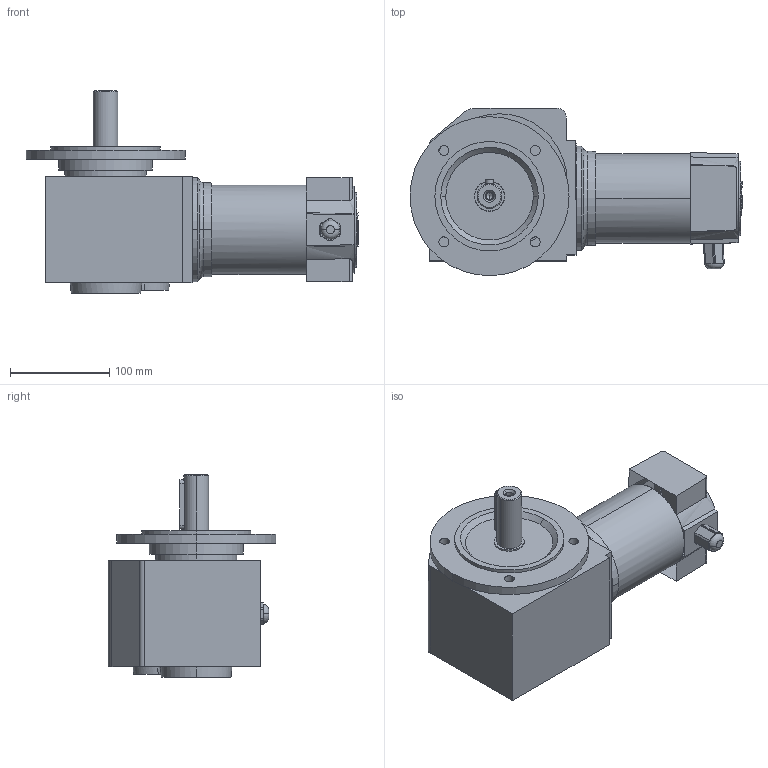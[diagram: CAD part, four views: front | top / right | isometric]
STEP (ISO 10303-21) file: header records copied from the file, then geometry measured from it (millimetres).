
FILE_DESCRIPTION(('OneSpaceDesigner STEP Export'),'2;1');
FILE_NAME('EPG21_ZF48.stp','2008-07-22T10:51:45',(''),(''),'OneSpace Designer STEP processor (Jan. 2003) for AP214(CD)(Solid Model)','OneSpace Designer 12.01D 09-Jul-2004 (C) CoCreate Software GmbH','');
FILE_SCHEMA(('AUTOMOTIVE_DESIGN_CC2 {1 2 10303 214 -1 1 5 1}'));
Length unit declared in the file: millimetre
Products named in the file (2): EPG21_ZF48
Assembly tree (1 placements, depth 2):
  EPG21_ZF48
    EPG21_ZF48
Bounding box: 334 x 168.5 x 204 mm (x, y, z)
Volume: 3847204.6 mm3; surface area: 212319.8 mm2
Topology: 1 solids, 1 shells, 133 faces, 322 edges, 210 vertices
Faces by surface type: cylinder 55, plane 54, cone 10, bspline 10, torus 4
Entity records: 10458 total; most frequent: CARTESIAN_POINT 7566, ORIENTED_EDGE 640, DIRECTION 486, EDGE_CURVE 320, VERTEX_POINT 210, AXIS2_PLACEMENT_3D 169, EDGE_LOOP 162, VECTOR 148
